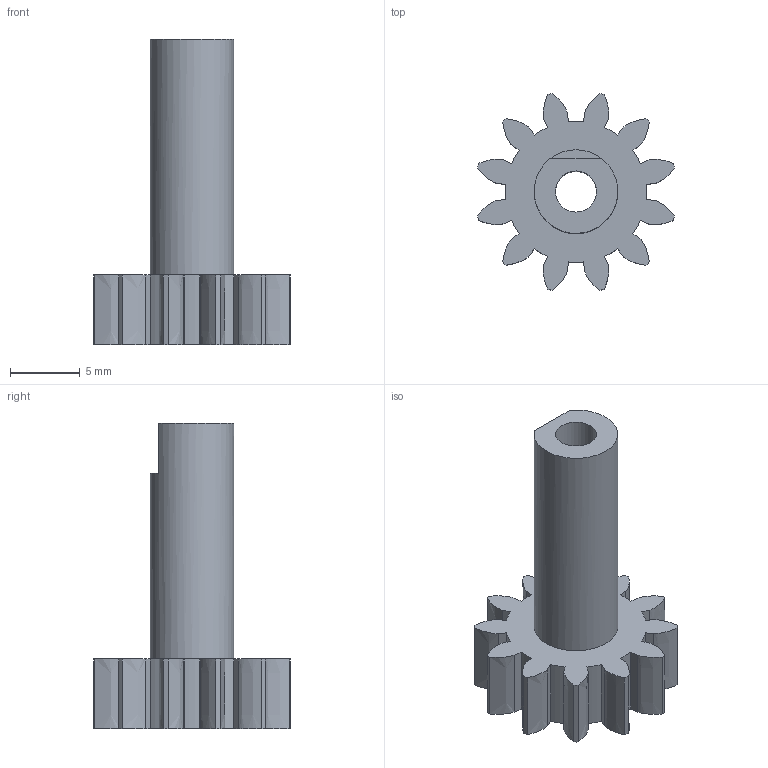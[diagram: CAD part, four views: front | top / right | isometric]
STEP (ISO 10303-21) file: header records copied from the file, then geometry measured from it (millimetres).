
FILE_DESCRIPTION(('Open CASCADE Model'),'2;1');
FILE_NAME('Open CASCADE Shape Model','2026-10-05T13:03:07',('Author'),( 'Open CASCADE'),'Open CASCADE STEP processor 7.9','Open CASCADE 7.9' ,'Unknown');
FILE_SCHEMA(('AUTOMOTIVE_DESIGN { 1 0 10303 214 1 1 1 1 }'));
Length unit declared in the file: millimetre
Products named in the file (1): Open CASCADE STEP translator 7.9 19
Bounding box: 14.11 x 14.11 x 21.9 mm (x, y, z)
Volume: 904.1 mm3; surface area: 1119.1 mm2
Topology: 1 solids, 1 shells, 79 faces, 228 edges, 152 vertices
Faces by surface type: plane 29, cylinder 26, extrusion 24
Full cylindrical faces by diameter (mm): 2.95 x1, 6 x1
Entity records: 6222 total; most frequent: CARTESIAN_POINT 1756, DIRECTION 778, VECTOR 504, LINE 480, ORIENTED_EDGE 456, PCURVE 456, DEFINITIONAL_REPRESENTATION 456, EDGE_CURVE 228
